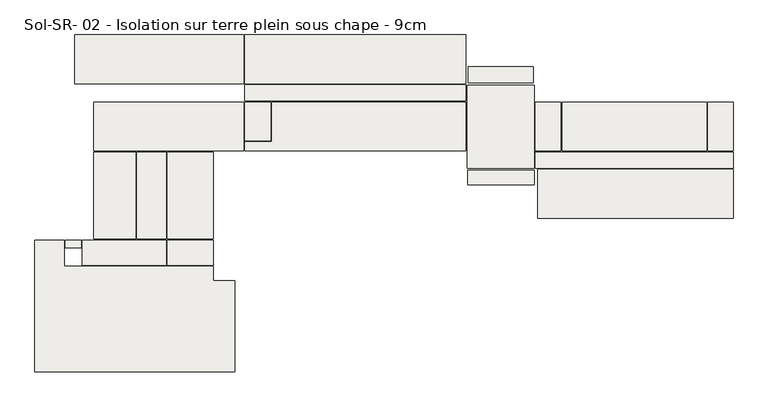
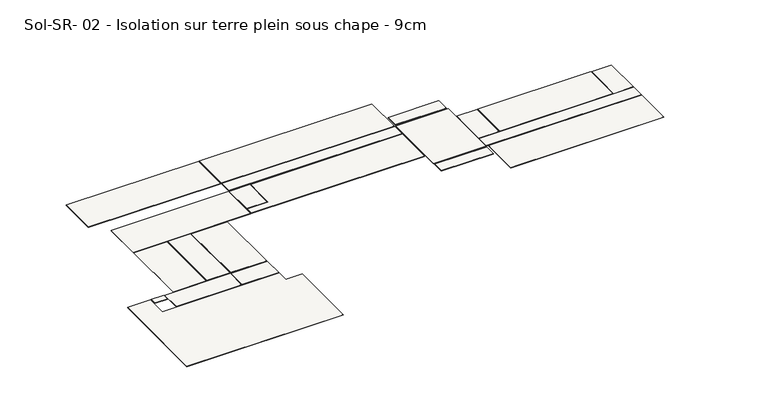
"""IFC4 building model written with IfcOpenShell, lengths in millimetres: slab geometry, Sol-SR- 02 - Isolation sur terre plein sous chape - 9cm."""

from ifc_helpers import new_model, si_unit, frame, origin, place, context, project, spatial, polyline, outline, extrude, source, transform, mapped, element, save


def sol_sr_02_isolation_sur_terre_plein_sous_chape_9cm_139e49e1(model_context):
    return source(origin(), model_context, "Body", "SweptSolid", [
        extrude(outline(polyline([(-110868.8280797, -33725.2180652), (-110868.8280797, -34924.1966115), (-113474.8280797, -34924.1966115), (-113474.8280797, -33725.2180652), (-110868.8280797, -33725.2180652)])), frame((0.0, 0.0, -350.0), z_axis=(0.0, 0.0, 1.0), x_axis=(1.0, 0.0, 0.0)), (0.0, 0.0, 1.0), 90.0),
        extrude(outline(polyline([(-110668.8280797, -33725.2180652), (-96969.9999698, -33725.2180652), (-96969.9999698, -37807.1966115), (-110668.8280797, -37807.1966115), (-110668.8280797, -33725.2180652)])), frame((0.0, 0.0, -350.0), z_axis=(0.0, 0.0, 1.0), x_axis=(1.0, 0.0, 0.0)), (0.0, 0.0, 1.0), 90.0),
        extrude(outline(polyline([(-85689.873809, -40350.7903364), (-85689.873809, -55265.0173441), (-118463.5057462, -55265.0173441), (-118463.5057462, -33725.2180652), (-113674.8280797, -33725.2180652), (-113674.8280797, -38007.1966115), (-89219.3218006, -38007.1966115), (-89219.3218006, -40350.7903364), (-85689.873809, -40350.7903364)])), frame((0.0, 0.0, -350.0), z_axis=(0.0, 0.0, 1.0), x_axis=(1.0, 0.0, 0.0)), (0.0, 0.0, 1.0), 90.0),
        extrude(outline(polyline([(-32095.9367535, -19100.7903364), (-32095.9367535, -11099.999999), (-8452.9988284, -11099.999999), (-8452.9988284, -19100.7903364), (-32095.9367535, -19100.7903364)])), frame((0.0, 0.0, -350.0), z_axis=(0.0, 0.0, 1.0), x_axis=(1.0, 0.0, 0.0)), (0.0, 0.0, 1.0), 90.0),
        extrude(outline(polyline([(-4099.9988284, -21901.5656731), (-36479.9987968, -21901.5656731), (-36479.9987968, -19300.7903364), (-4099.9988284, -19300.7903364), (-4099.9988284, -21901.5656731)])), frame((0.0, 0.0, -350.0), z_axis=(0.0, 0.0, 1.0), x_axis=(1.0, 0.0, 0.0)), (0.0, 0.0, 1.0), 90.0),
        extrude(outline(polyline([(-84294.9987767, -19100.7903364), (-108816.1304765, -19100.7903364), (-108816.1304765, -11099.999999), (-84294.9987767, -11099.999999), (-84294.9987767, -19100.7903364)])), frame((0.0, 0.0, -350.0), z_axis=(0.0, 0.0, 1.0), x_axis=(1.0, 0.0, 0.0)), (0.0, 0.0, 1.0), 90.0),
        extrude(outline(polyline([(-96969.9999698, -19300.7903364), (-96969.9999698, -33525.2180652), (-101748.3455046, -33525.2180652), (-101748.3455046, -19300.7903364), (-96969.9999698, -19300.7903364)])), frame((0.0, 0.0, -350.0), z_axis=(0.0, 0.0, 1.0), x_axis=(1.0, 0.0, 0.0)), (0.0, 0.0, 1.0), 90.0),
        extrude(outline(polyline([(-89219.3218005, -33725.2180652), (-89219.3218005, -37807.1966115), (-96769.9999698, -37807.1966115), (-96769.9999698, -33725.2180652), (-89219.3218005, -33725.2180652)])), frame((0.0, 0.0, -350.0), z_axis=(0.0, 0.0, 1.0), x_axis=(1.0, 0.0, 0.0)), (0.0, 0.0, 1.0), 90.0),
        extrude(outline(polyline([(-36114.9987968, -30103.1349959), (-36114.9987968, -22101.5656731), (-4099.9988284, -22101.5656731), (-4099.9988284, -30103.1349959), (-36114.9987968, -30103.1349959)])), frame((0.0, 0.0, -350.0), z_axis=(0.0, 0.0, 1.0), x_axis=(1.0, 0.0, 0.0)), (0.0, 0.0, 1.0), 90.0),
        extrude(outline(polyline([(-36647.9987968, -24651.5656731), (-47526.998776, -24651.5656731), (-47526.998776, -22301.5656731), (-36647.9987968, -22301.5656731), (-36647.9987968, -24651.5656731)])), frame((0.0, 0.0, -350.0), z_axis=(0.0, 0.0, 1.0), x_axis=(1.0, 0.0, 0.0)), (0.0, 0.0, 1.0), 90.0),
        extrude(outline(polyline([(-84094.9987767, -8300.4850099), (-47879.998776, -8300.4850099), (-47879.998776, -10899.999999), (-84094.9987767, -10899.999999), (-84094.9987767, -8300.4850099)])), frame((0.0, 0.0, -350.0), z_axis=(0.0, 0.0, 1.0), x_axis=(1.0, 0.0, 0.0)), (0.0, 0.0, 1.0), 90.0),
        extrude(outline(polyline([(-47499.998776, -7900.4850099), (-47499.998776, -5275.4850099), (-36832.9987968, -5275.4850099), (-36832.9987968, -7900.4850099), (-47499.998776, -7900.4850099)])), frame((0.0, 0.0, -350.0), z_axis=(0.0, 0.0, 1.0), x_axis=(1.0, 0.0, 0.0)), (0.0, 0.0, 1.0), 90.0),
        extrude(outline(polyline([(-96769.9999698, -33525.2180652), (-96769.9999698, -19300.7903364), (-89219.3218005, -19300.7903364), (-89219.3218005, -33525.2180652), (-96769.9999698, -33525.2180652)])), frame((0.0, 0.0, -350.0), z_axis=(0.0, 0.0, 1.0), x_axis=(1.0, 0.0, 0.0)), (0.0, 0.0, 1.0), 90.0),
        extrude(outline(polyline([(-32295.9367535, -19100.7903364), (-36479.9987968, -19100.7903364), (-36479.9987968, -11099.999999), (-32295.9367535, -11099.999999), (-32295.9367535, -19100.7903364)])), frame((0.0, 0.0, -350.0), z_axis=(0.0, 0.0, 1.0), x_axis=(1.0, 0.0, 0.0)), (0.0, 0.0, 1.0), 90.0),
        extrude(outline(polyline([(-84094.9987767, -8100.4850099), (-84094.9987767, -100.0), (-47879.998776, -100.0), (-47879.998776, -8100.4850099), (-84094.9987767, -8100.4850099)])), frame((0.0, 0.0, -350.0), z_axis=(0.0, 0.0, 1.0), x_axis=(1.0, 0.0, 0.0)), (0.0, 0.0, 1.0), 90.0),
        extrude(outline(polyline([(-47679.998776, -8320.4850099), (-36679.9987968, -8320.4850099), (-36679.9987968, -21901.5656731), (-47679.998776, -21901.5656731), (-47679.998776, -8320.4850099)])), frame((0.0, 0.0, -350.0), z_axis=(0.0, 0.0, 1.0), x_axis=(1.0, 0.0, 0.0)), (0.0, 0.0, 1.0), 90.0),
        extrude(outline(polyline([(-101948.3455046, -19300.7903364), (-101948.3455046, -33525.2180652), (-108816.1304765, -33525.2180652), (-108816.1304765, -19300.7903364), (-101948.3455046, -19300.7903364)])), frame((0.0, 0.0, -350.0), z_axis=(0.0, 0.0, 1.0), x_axis=(1.0, 0.0, 0.0)), (0.0, 0.0, 1.0), 90.0),
        extrude(outline(polyline([(-47879.998776, -19100.7903364), (-84094.9987767, -19100.7903364), (-84094.9987767, -17600.7903364), (-79664.998776, -17600.7903364), (-79664.998776, -11099.999999), (-47879.998776, -11099.999999), (-47879.998776, -19100.7903364)])), frame((0.0, 0.0, -350.0), z_axis=(0.0, 0.0, 1.0), x_axis=(1.0, 0.0, 0.0)), (0.0, 0.0, 1.0), 90.0),
        extrude(outline(polyline([(-84094.9987767, -17400.7903364), (-84094.9987767, -11099.999999), (-79864.998776, -11099.999999), (-79864.998776, -17400.7903364), (-84094.9987767, -17400.7903364)])), frame((0.0, 0.0, -350.0), z_axis=(0.0, 0.0, 1.0), x_axis=(1.0, 0.0, 0.0)), (0.0, 0.0, 1.0), 90.0),
        extrude(outline(polyline([(-111906.6169684, -100.0), (-84294.9987767, -100.0), (-84294.9987767, -8100.4850099), (-111906.6169684, -8100.4850099), (-111906.6169684, -100.0)])), frame((0.0, 0.0, -350.0), z_axis=(0.0, 0.0, 1.0), x_axis=(1.0, 0.0, 0.0)), (0.0, 0.0, 1.0), 90.0),
        extrude(outline(polyline([(-8252.9988284, -19100.7903364), (-8252.9988284, -11099.999999), (-4099.9988284, -11099.999999), (-4099.9988284, -19100.7903364), (-8252.9988284, -19100.7903364)])), frame((0.0, 0.0, -350.0), z_axis=(0.0, 0.0, 1.0), x_axis=(1.0, 0.0, 0.0)), (0.0, 0.0, 1.0), 90.0),
    ])


if __name__ == "__main__":
    model = new_model("IFC4")
    model_context = context("Model", 3, world=origin())
    ifc_project = project(units=[si_unit("LENGTHUNIT", "METRE", prefix="MILLI")], contexts=[model_context])
    site = spatial("IfcSite", under=ifc_project)
    building = spatial("IfcBuilding", under=site)
    placement = place(None, origin())
    sol_sr_02_isolation_sur_terre_plein_sous_chape_9cm_shape = sol_sr_02_isolation_sur_terre_plein_sous_chape_9cm_139e49e1(model_context)
    element("IfcSlab", 1, ObjectType="Sol-SR- 02 - Isolation sur terre plein sous chape - 9cm", at=placement, inside=building, context=model_context, shape_type="MappedRepresentation", body=[
        mapped(sol_sr_02_isolation_sur_terre_plein_sous_chape_9cm_shape, transform((0.0, 0.0, 0.0), x_axis=(1.0, 0.0, 0.0), y_axis=(0.0, 1.0, 0.0), z_axis=(0.0, 0.0, 1.0))),
    ])
    save(model, "model.ifc")
